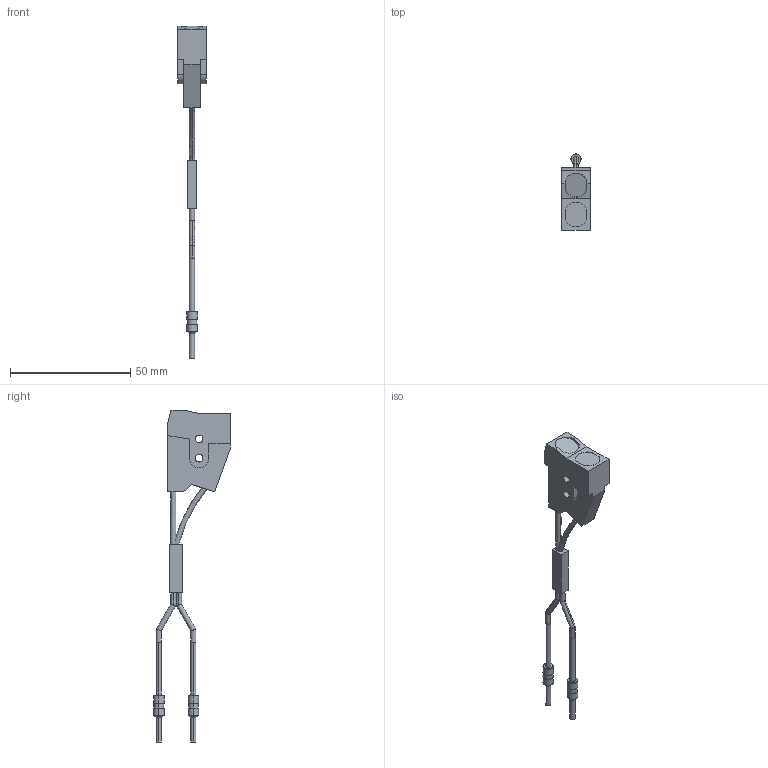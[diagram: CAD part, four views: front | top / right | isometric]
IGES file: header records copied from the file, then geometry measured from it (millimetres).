
Start section: SolidWorks IGES FILE using analytic representation for surfaces
Global section: file name: \\Intra-srv04\開発データ\CAD_Data\CAD委員会\3D電子ｶﾀﾛｸﾞ\製品カタログ（新）\0_IGES\FD-L54.IGS,41HSolidWorks 2004; native system: by SolidWorks Corporation; preprocessor: Version 5.3; author: yk0651; date: 050905.104023; units: millimetre
Bounding box: 12 x 31.91 x 137.9 mm (x, y, z)
Volume: 8383.8 mm3; surface area: 4817.6 mm2
Topology: 3 solids, 3 shells, 102 faces, 241 edges, 155 vertices
Faces by surface type: revolution 54, plane 46, bspline 2
